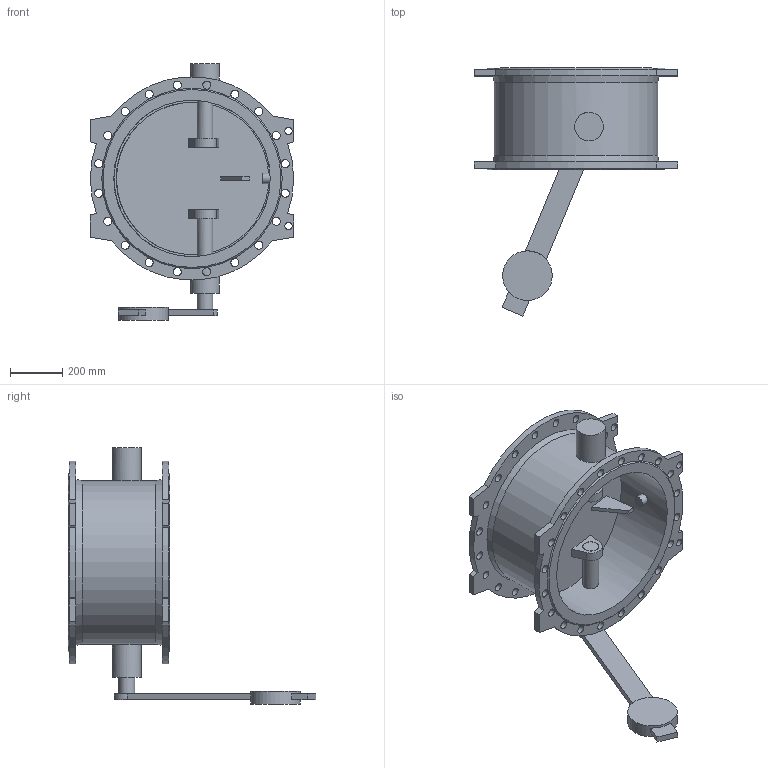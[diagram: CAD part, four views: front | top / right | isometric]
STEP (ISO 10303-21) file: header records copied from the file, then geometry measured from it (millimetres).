
FILE_DESCRIPTION(('STEP AP203'), '1');
FILE_NAME('Êëàïàí 015F.PV DN600 PN10 ñ ïðîòèâîâåñîì', '', ('UNSPECIFIED'), ('UNSPECIFIED'), 'ASCON STEP Converter 1.6', 'ASCON Math Kernel', '');
FILE_SCHEMA(('CONFIG_CONTROL_DESIGN'));
Length unit declared in the file: millimetre
Bounding box: 780 x 950 x 984 mm (x, y, z)
Volume: 29090718.3 mm3; surface area: 3415496.4 mm2
Topology: 1 solids, 1 shells, 136 faces, 351 edges, 233 vertices
Faces by surface type: cylinder 66, plane 63, cone 4, extrusion 2, bspline 1
Full cylindrical faces by diameter (mm): 28 x4, 31 x40, 40 x1, 60 x3, 62 x2, 110 x2, 190 x1, 600 x1, 626 x1
Entity records: 6095 total; most frequent: CARTESIAN_POINT 1606, DIRECTION 678, ORIENTED_EDGE 572, EDGE_LOOP 310, EDGE_CURVE 286, AXIS2_PLACEMENT_3D 273, VERTEX_POINT 232, FACE_BOUND 189
